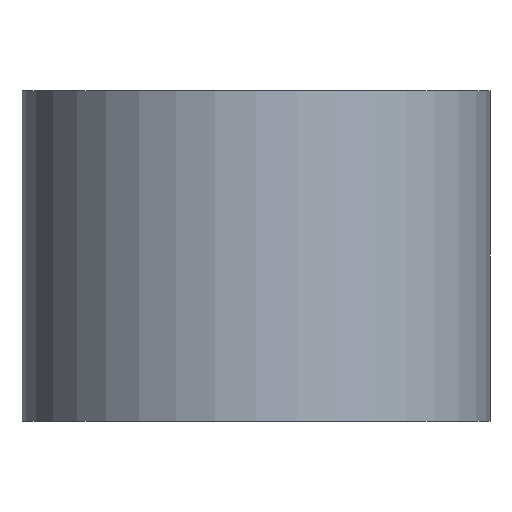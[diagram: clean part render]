
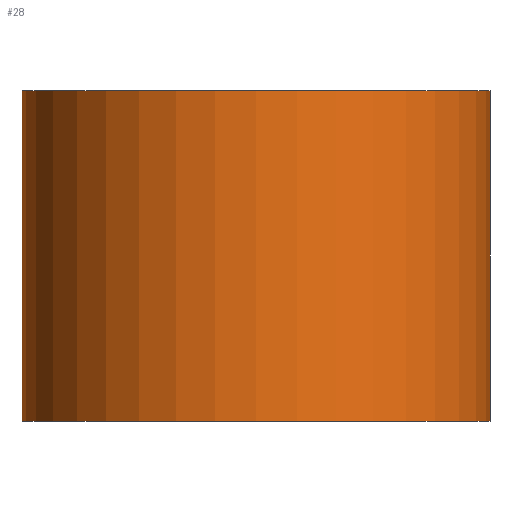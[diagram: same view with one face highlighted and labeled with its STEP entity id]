
A CAD part, front view. The second image highlights one B-rep face of the part: STEP entity #28.
In plain terms, the highlighted cylindrical face has radius 8.5 mm (diameter 17 mm), a full revolution.
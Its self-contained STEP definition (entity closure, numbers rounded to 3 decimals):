
#28 = ADVANCED_FACE( '', ( #53, #54 ), #55, .T. );
#53 = FACE_OUTER_BOUND( '', #76, .T. );
#54 = FACE_OUTER_BOUND( '', #77, .T. );
#55 = CYLINDRICAL_SURFACE( '', #78, 8.5 );
#76 = EDGE_LOOP( '', ( #93 ) );
#77 = EDGE_LOOP( '', ( #94 ) );
#78 = AXIS2_PLACEMENT_3D( '', #95, #96, #97 );
#93 = ORIENTED_EDGE( '', *, *, #117, .T. );
#94 = ORIENTED_EDGE( '', *, *, #118, .F. );
#95 = CARTESIAN_POINT( '', ( 0., 0., 12. ) );
#96 = DIRECTION( '', ( 0., 0., 1. ) );
#97 = DIRECTION( '', ( -1., 0., 0. ) );
#117 = EDGE_CURVE( '', #125, #125, #126, .T. );
#118 = EDGE_CURVE( '', #127, #127, #128, .T. );
#125 = VERTEX_POINT( '', #137 );
#126 = CIRCLE( '', #138, 8.5 );
#127 = VERTEX_POINT( '', #139 );
#128 = CIRCLE( '', #140, 8.5 );
#137 = CARTESIAN_POINT( '', ( 8.5, 0., 12. ) );
#138 = AXIS2_PLACEMENT_3D( '', #148, #149, #150 );
#139 = CARTESIAN_POINT( '', ( 8.5, 0., 0. ) );
#140 = AXIS2_PLACEMENT_3D( '', #151, #152, #153 );
#148 = CARTESIAN_POINT( '', ( 0., 0., 12. ) );
#149 = DIRECTION( '', ( 0., 0., -1. ) );
#150 = DIRECTION( '', ( 1., 0., 0. ) );
#151 = CARTESIAN_POINT( '', ( 0., 0., 0. ) );
#152 = DIRECTION( '', ( 0., 0., -1. ) );
#153 = DIRECTION( '', ( 1., 0., 0. ) );
